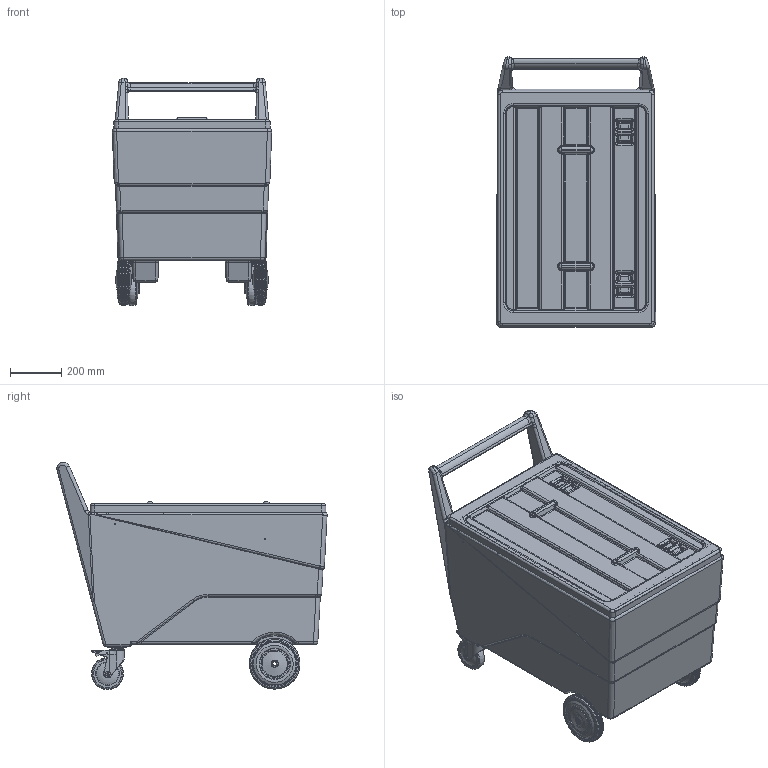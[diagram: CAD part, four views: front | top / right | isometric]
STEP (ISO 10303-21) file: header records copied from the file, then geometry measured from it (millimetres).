
FILE_DESCRIPTION(/* description */ ('Unknown'),/* implementation_level */ '2;1');
FILE_NAME(/* name */ 'Carro',/* time_stamp */ '2018-04-24T10:36:57+02:00',/* author */ ('Unknown'),/* organization */ ('Unknown'),/* preprocessor_version */ 'ST-DEVELOPER v16.7',/* originating_system */ 'DEX',/* authorisation */ $);
FILE_SCHEMA (('CONFIG_CONTROL_DESIGN'));
Products named in the file (12): 42-38+carro; 42-38+8832; 8862+rueda-125+freno; Sup1; 8861+rueda-d200_oa_0; 8861+rueda-d200_oa_1; 42-50+desague carro_oa_2; 8868+valvula 1-2 + m-h_oa_3; 42-157_oa_4; 42-158+31217_oa_5; 42-73+8871
Assembly tree (13 placements, depth 3):
  42-38+carro
    42-38+8832
    8862+rueda-125+freno  x2
      Sup1
    8861+rueda-d200_oa_0
      Sup1
    8861+rueda-d200_oa_1
      Sup1
    42-50+desague carro_oa_2
      8868+valvula 1-2 + m-h_oa_3
      42-157_oa_4
    42-158+31217_oa_5
      42-73+8871
Bounding box: 622.09 x 1054.45 x 886.97 mm (x, y, z)
Volume: 102241397.4 mm3; surface area: 6031278 mm2
Topology: 2 solids, 16 shells, 5394 faces, 13516 edges, 8206 vertices
Faces by surface type: plane 2622, bspline 838, cylinder 812, cone 700, torus 317, sphere 105
Full cylindrical faces by diameter (mm): 4.134 x4, 4.917 x18, 5 x2, 15 x17, 19 x4, 20 x1, 21.1 x8, 21.5 x2, 23 x4, 23.5 x4, 28.9 x1, 29.5 x2, 30 x6, 30.9 x8, 34.8 x4, 35 x4, 39.5 x1, 40 x2, 53.074 x4, 55.4 x2, 57.4 x2, 65.058 x4, 70 x1, 80 x1, 87.886 x4, 89.886 x4, 98.5 x2, 100.389 x4, 103.388 x4, 107 x4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
Entity records: 113493 total; most frequent: CARTESIAN_POINT 34779, ORIENTED_EDGE 16258, DIRECTION 15802, EDGE_CURVE 8129, AXIS2_PLACEMENT_3D 6174, VERTEX_POINT 5039, FACE_BOUND 3822, EDGE_LOOP 3819
